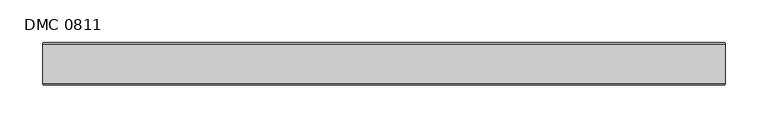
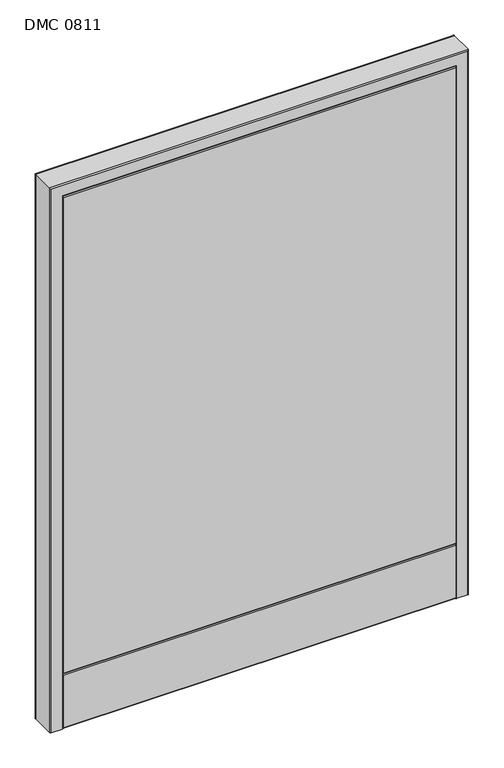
"""IFC4 building model written with IfcOpenShell, lengths in millimetres: furniture geometry, Mobiliário_MobiliáriodeEscritório_LinhaDivision_PainelDivisionCego-Melamina_Marelli : DMC 0811."""

from ifc_helpers import new_model, si_unit, point, frame, frame_2d, origin, place, context, project, spatial, polyline, circle_curve, ellipse_curve, trimmed, segment, composite_curve, outline, extrude, source, transform, mapped, element, save
from ifc_brep_helpers import plane_surface, cylinder_surface, advanced_brep


def dmc_0811_314b756a(model_context):
    return source(origin(), model_context, "Body", "SolidModel", [
        advanced_brep(
        [(777.0, 50.0, 0.0), (798.0, 50.0, 0.0), (800.0, 48.0, 0.0), (800.0, 2.0, 0.0), (798.0, 0.0, 0.0), (777.0, 0.0, 0.0), (775.0, 2.0, 0.0), (775.0, 48.0, 0.0), (23.0, 50.0, 0.0), (25.0, 48.0, 0.0), (25.0, 2.0, 0.0), (23.0, 0.0, 0.0), (2.0, 0.0, 0.0), (0.0, 2.0, 0.0), (0.0, 48.0, 0.0), (2.0, 50.0, 0.0), (777.0, 50.0, 1077.0), (23.0, 50.0, 1077.0), (2.0, 50.0, 1098.0), (798.0, 50.0, 1098.0), (800.0, 48.0, 1100.0), (800.0, 2.0, 1100.0), (798.0, 0.0, 1098.0), (2.0, 0.0, 1098.0), (23.0, 0.0, 1077.0), (777.0, 0.0, 1077.0), (775.0, 2.0, 1075.0), (775.0, 48.0, 1075.0), (0.0, 48.0, 1100.0), (0.0, 2.0, 1100.0), (25.0, 2.0, 1075.0), (25.0, 48.0, 1075.0)],
        [
            (0, 1),
            (1, 2, circle_curve(frame((798.0, 48.0, 0.0), z_axis=(0.0, 0.0, -1.0), x_axis=(0.0, -1.0, 0.0)), 2.0)),
            (2, 3),
            (3, 4, circle_curve(frame((798.0, 2.0, 0.0), z_axis=(0.0, 0.0, -1.0), x_axis=(0.0, -1.0, 0.0)), 2.0)),
            (4, 5),
            (5, 6, circle_curve(frame((777.0, 2.0, 0.0), z_axis=(0.0, 0.0, -1.0), x_axis=(0.0, -1.0, 0.0)), 2.0)),
            (6, 7),
            (7, 0, circle_curve(frame((777.0, 48.0, 0.0), z_axis=(0.0, 0.0, -1.0), x_axis=(0.0, -1.0, 0.0)), 2.0)),
            (8, 9, circle_curve(frame((23.0, 48.0, 0.0), z_axis=(0.0, 0.0, -1.0), x_axis=(0.0, -1.0, 0.0)), 2.0)),
            (9, 10),
            (10, 11, circle_curve(frame((23.0, 2.0, 0.0), z_axis=(0.0, 0.0, -1.0), x_axis=(0.0, -1.0, 0.0)), 2.0)),
            (11, 12),
            (12, 13, circle_curve(frame((2.0, 2.0, 0.0), z_axis=(0.0, 0.0, -1.0), x_axis=(0.0, -1.0, 0.0)), 2.0)),
            (13, 14),
            (14, 15, circle_curve(frame((2.0, 48.0, 0.0), z_axis=(0.0, 0.0, -1.0), x_axis=(0.0, -1.0, 0.0)), 2.0)),
            (15, 8),
            (0, 16),
            (16, 17),
            (17, 8),
            (15, 18),
            (18, 19),
            (19, 1),
            (19, 20, ellipse_curve(frame((798.0, 48.0, 1098.0), z_axis=(0.7071067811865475, 0.0, -0.7071067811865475), x_axis=(-0.7071067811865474, 0.0, -0.7071067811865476)), 2.8284271, 2.0)),
            (20, 2),
            (20, 21),
            (21, 3),
            (21, 22, ellipse_curve(frame((798.0, 2.0, 1098.0), z_axis=(0.7071067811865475, 0.0, -0.7071067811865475), x_axis=(-0.7071067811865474, 0.0, -0.7071067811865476)), 2.8284271, 2.0)),
            (22, 4),
            (22, 23),
            (23, 12),
            (11, 24),
            (24, 25),
            (25, 5),
            (25, 26, ellipse_curve(frame((777.0, 2.0, 1077.0), z_axis=(0.7071067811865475, 0.0, -0.7071067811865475), x_axis=(-0.7071067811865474, 0.0, -0.7071067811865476)), 2.8284271, 2.0)),
            (26, 6),
            (26, 27),
            (27, 7),
            (27, 16, ellipse_curve(frame((777.0, 48.0, 1077.0), z_axis=(0.7071067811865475, 0.0, -0.7071067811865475), x_axis=(-0.7071067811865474, 0.0, -0.7071067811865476)), 2.8284271, 2.0)),
            (18, 28, ellipse_curve(frame((2.0, 48.0, 1098.0), z_axis=(0.7071067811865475, 0.0, 0.7071067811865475), x_axis=(0.7071067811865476, 0.0, -0.7071067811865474)), 2.8284271, 2.0)),
            (28, 20),
            (28, 29),
            (29, 21),
            (29, 23, ellipse_curve(frame((2.0, 2.0, 1098.0), z_axis=(0.7071067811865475, 0.0, 0.7071067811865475), x_axis=(0.7071067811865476, 0.0, -0.7071067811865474)), 2.8284271, 2.0)),
            (24, 30, ellipse_curve(frame((23.0, 2.0, 1077.0), z_axis=(0.7071067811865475, 0.0, 0.7071067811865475), x_axis=(0.7071067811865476, 0.0, -0.7071067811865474)), 2.8284271, 2.0)),
            (30, 26),
            (30, 31),
            (31, 27),
            (31, 17, ellipse_curve(frame((23.0, 48.0, 1077.0), z_axis=(0.7071067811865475, 0.0, 0.7071067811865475), x_axis=(0.7071067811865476, 0.0, -0.7071067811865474)), 2.8284271, 2.0)),
            (14, 28),
            (13, 29),
            (10, 30),
            (9, 31),
        ],
        [
            plane_surface(frame((800.0, 0.0, 0.0), z_axis=(0.0, 0.0, -1.0), x_axis=(0.0, -1.0, 0.0))),
            plane_surface(frame((0.0, 0.0, 0.0), z_axis=(0.0, 0.0, -1.0), x_axis=(0.0, -1.0, 0.0))),
            plane_surface(frame((777.0, 50.0, 0.0), z_axis=(0.0, 1.0, 0.0), x_axis=(0.0, 0.0, 1.0))),
            cylinder_surface(frame((798.0, 48.0, 0.0), z_axis=(0.0, 0.0, -1.0), x_axis=(0.0, -1.0, 0.0)), 2.0),
            plane_surface(frame((800.0, 48.0, 0.0), z_axis=(1.0, 0.0, 0.0), x_axis=(0.0, 0.0, 1.0))),
            cylinder_surface(frame((798.0, 2.0, 0.0), z_axis=(0.0, 0.0, -1.0), x_axis=(0.0, -1.0, 0.0)), 2.0),
            plane_surface(frame((798.0, 0.0, 0.0), z_axis=(0.0, -1.0, 0.0), x_axis=(0.0, 0.0, 1.0))),
            cylinder_surface(frame((777.0, 2.0, 0.0), z_axis=(0.0, 0.0, -1.0), x_axis=(0.0, -1.0, 0.0)), 2.0),
            plane_surface(frame((775.0, 2.0, 0.0), z_axis=(-1.0, 0.0, 0.0), x_axis=(0.0, 0.0, 1.0))),
            cylinder_surface(frame((777.0, 48.0, 0.0), z_axis=(0.0, 0.0, -1.0), x_axis=(0.0, -1.0, 0.0)), 2.0),
            cylinder_surface(frame((800.0, 48.0, 1098.0), z_axis=(1.0, 0.0, 0.0), x_axis=(0.0, -1.0, 0.0)), 2.0),
            plane_surface(frame((800.0, 48.0, 1100.0), z_axis=(0.0, 0.0, 1.0), x_axis=(-1.0, 0.0, 0.0))),
            cylinder_surface(frame((800.0, 2.0, 1098.0), z_axis=(1.0, 0.0, 0.0), x_axis=(0.0, -1.0, 0.0)), 2.0),
            cylinder_surface(frame((800.0, 2.0, 1077.0), z_axis=(1.0, 0.0, 0.0), x_axis=(0.0, -1.0, 0.0)), 2.0),
            plane_surface(frame((775.0, 2.0, 1075.0), z_axis=(0.0, 0.0, -1.0), x_axis=(-1.0, 0.0, 0.0))),
            cylinder_surface(frame((800.0, 48.0, 1077.0), z_axis=(1.0, 0.0, 0.0), x_axis=(0.0, -1.0, 0.0)), 2.0),
            cylinder_surface(frame((2.0, 48.0, 1100.0), z_axis=(0.0, 0.0, 1.0), x_axis=(0.0, -1.0, 0.0)), 2.0),
            plane_surface(frame((0.0, 48.0, 1100.0), z_axis=(-1.0, 0.0, 0.0), x_axis=(0.0, 0.0, -1.0))),
            cylinder_surface(frame((2.0, 2.0, 1100.0), z_axis=(0.0, 0.0, 1.0), x_axis=(0.0, -1.0, 0.0)), 2.0),
            cylinder_surface(frame((23.0, 2.0, 1100.0), z_axis=(0.0, 0.0, 1.0), x_axis=(0.0, -1.0, 0.0)), 2.0),
            plane_surface(frame((25.0, 2.0, 1075.0), z_axis=(1.0, 0.0, 0.0), x_axis=(0.0, 0.0, -1.0))),
            cylinder_surface(frame((23.0, 48.0, 1100.0), z_axis=(0.0, 0.0, 1.0), x_axis=(0.0, -1.0, 0.0)), 2.0),
        ],
        [
            (0, [[1, 2, 3, 4, 5, 6, 7, 8]]),
            (1, [[9, 10, 11, 12, 13, 14, 15, 16]]),
            (2, [[-1, 17, 18, 19, -16, 20, 21, 22]]),
            (3, [[-2, -22, 23, 24]]),
            (4, [[-3, -24, 25, 26]]),
            (5, [[-4, -26, 27, 28]]),
            (6, [[-5, -28, 29, 30, -12, 31, 32, 33]]),
            (7, [[-6, -33, 34, 35]]),
            (8, [[-7, -35, 36, 37]]),
            (9, [[-8, -37, 38, -17]]),
            (10, [[-23, -21, 39, 40]]),
            (11, [[-25, -40, 41, 42]]),
            (12, [[-27, -42, 43, -29]]),
            (13, [[-34, -32, 44, 45]]),
            (14, [[-36, -45, 46, 47]]),
            (15, [[-38, -47, 48, -18]]),
            (16, [[-39, -20, -15, 49]]),
            (17, [[-41, -49, -14, 50]]),
            (18, [[-43, -50, -13, -30]]),
            (19, [[-44, -31, -11, 51]]),
            (20, [[-46, -51, -10, 52]]),
            (21, [[-48, -52, -9, -19]]),
        ],
    ),
        extrude(outline(composite_curve([segment(trimmed(circle_curve(frame_2d((48.0, 108.0)), 2.0), [point((48.0, 110.0))], [point((50.0, 108.0))], False, "CARTESIAN"), True, "CONTINUOUS"), segment(polyline([(50.0, 108.0), (50.0, 2.0)]), True, "CONTINUOUS"), segment(trimmed(circle_curve(frame_2d((48.0, 2.0)), 2.0), [point((50.0, 2.0))], [point((48.0, 0.0))], False, "CARTESIAN"), True, "CONTINUOUS"), segment(polyline([(48.0, 0.0), (2.0, 0.0)]), True, "CONTINUOUS"), segment(trimmed(circle_curve(frame_2d((2.0, 2.0)), 2.0), [point((2.0, 0.0))], [point((0.0, 2.0))], False, "CARTESIAN"), True, "CONTINUOUS"), segment(polyline([(0.0, 2.0), (0.0, 108.0)]), True, "CONTINUOUS"), segment(trimmed(circle_curve(frame_2d((2.0, 108.0)), 2.0), [point((0.0, 108.0))], [point((2.0, 110.0))], False, "CARTESIAN"), True, "CONTINUOUS"), segment(polyline([(2.0, 110.0), (48.0, 110.0)]), True, "CONTINUOUS")], self_intersect=False)), frame((25.0, 0.0, 0.0), z_axis=(1.0, 0.0, 0.0), x_axis=(0.0, 1.0, 0.0)), (0.0, 0.0, 1.0), 750.0),
        extrude(outline(composite_curve([segment(trimmed(circle_curve(frame_2d((48.0, 1073.0)), 2.0), [point((48.0, 1075.0))], [point((50.0, 1073.0))], False, "CARTESIAN"), True, "CONTINUOUS"), segment(polyline([(50.0, 1073.0), (50.0, 112.0)]), True, "CONTINUOUS"), segment(trimmed(circle_curve(frame_2d((48.0, 112.0)), 2.0), [point((50.0, 112.0))], [point((48.0, 110.0))], False, "CARTESIAN"), True, "CONTINUOUS"), segment(polyline([(48.0, 110.0), (2.0, 110.0)]), True, "CONTINUOUS"), segment(trimmed(circle_curve(frame_2d((2.0, 112.0)), 2.0), [point((2.0, 110.0))], [point((0.0, 112.0))], False, "CARTESIAN"), True, "CONTINUOUS"), segment(polyline([(0.0, 112.0), (0.0, 1073.0)]), True, "CONTINUOUS"), segment(trimmed(circle_curve(frame_2d((2.0, 1073.0)), 2.0), [point((0.0, 1073.0))], [point((2.0, 1075.0))], False, "CARTESIAN"), True, "CONTINUOUS"), segment(polyline([(2.0, 1075.0), (48.0, 1075.0)]), True, "CONTINUOUS")], self_intersect=False)), frame((25.0, 0.0, 0.0), z_axis=(1.0, 0.0, 0.0), x_axis=(0.0, 1.0, 0.0)), (0.0, 0.0, 1.0), 750.0),
    ])


if __name__ == "__main__":
    model = new_model("IFC4")
    model_context = context("Model", 3, world=origin())
    ifc_project = project(units=[si_unit("LENGTHUNIT", "METRE", prefix="MILLI")], contexts=[model_context])
    site = spatial("IfcSite", under=ifc_project)
    building = spatial("IfcBuilding", under=site)
    placement = place(None, origin())
    dmc_0811_shape = dmc_0811_314b756a(model_context)
    element("IfcFurniture", 1, ObjectType="Mobiliário_MobiliáriodeEscritório_LinhaDivision_PainelDivisionCego-Melamina_Marelli : DMC 0811", at=placement, inside=building, context=model_context, shape_type="MappedRepresentation", body=[
        mapped(dmc_0811_shape, transform((0.0, 0.0, 0.0), x_axis=(1.0, 0.0, 0.0), y_axis=(0.0, 1.0, 0.0), z_axis=(0.0, 0.0, 1.0))),
    ])
    save(model, "model.ifc")
